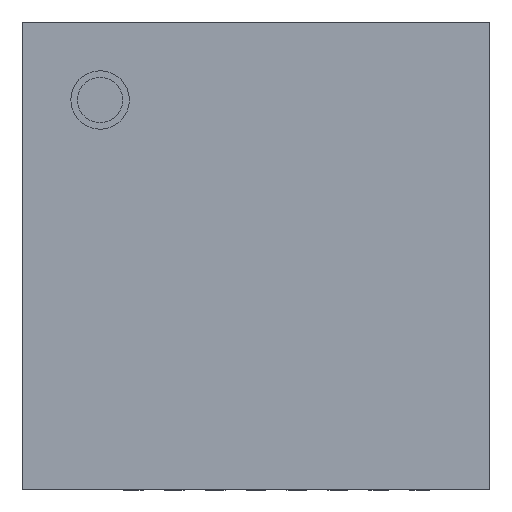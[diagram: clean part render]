
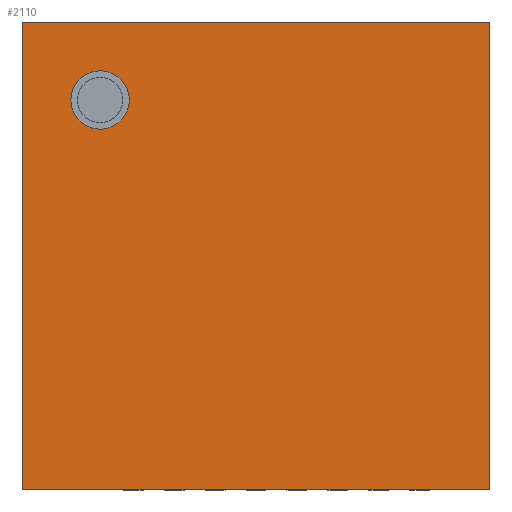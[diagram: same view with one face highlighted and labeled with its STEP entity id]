
A CAD part, top view. The second image highlights one B-rep face of the part: STEP entity #2110.
In plain terms, the highlighted planar face has unit normal (0, 0, 1).
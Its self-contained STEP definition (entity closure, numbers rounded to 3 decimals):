
#18 = VERTEX_POINT ( 'NONE', #1432 ) ;
#21 = CARTESIAN_POINT ( 'NONE',  ( 0., 0., 0.6 ) ) ;
#59 = LINE ( 'NONE', #1256, #1396 ) ;
#70 = EDGE_LOOP ( 'NONE', ( #2339, #147, #2365, #838 ) ) ;
#78 = DIRECTION ( 'NONE',  ( 0., 0., -1. ) ) ;
#82 = FACE_OUTER_BOUND ( 'NONE', #70, .T. ) ;
#147 = ORIENTED_EDGE ( 'NONE', *, *, #1062, .F. ) ;
#239 = FACE_BOUND ( 'NONE', #2206, .T. ) ;
#263 = ORIENTED_EDGE ( 'NONE', *, *, #1909, .T. ) ;
#268 = CARTESIAN_POINT ( 'NONE',  ( 4., 4., 0.6 ) ) ;
#276 = CARTESIAN_POINT ( 'NONE',  ( 0.667, 3.333, 0.6 ) ) ;
#330 = CARTESIAN_POINT ( 'NONE',  ( 4., 0., 0.6 ) ) ;
#353 = AXIS2_PLACEMENT_3D ( 'NONE', #673, #391, #1952 ) ;
#361 = EDGE_CURVE ( 'NONE', #748, #1251, #1150, .T. ) ;
#391 = DIRECTION ( 'NONE',  ( 0., 0., 1. ) ) ;
#413 = EDGE_CURVE ( 'NONE', #1038, #1251, #1621, .T. ) ;
#450 = AXIS2_PLACEMENT_3D ( 'NONE', #497, #1481, #2258 ) ;
#473 = VERTEX_POINT ( 'NONE', #1734 ) ;
#492 = AXIS2_PLACEMENT_3D ( 'NONE', #276, #78, #1849 ) ;
#497 = CARTESIAN_POINT ( 'NONE',  ( 0.667, 3.333, 0.6 ) ) ;
#534 = DIRECTION ( 'NONE',  ( 1., 0., 0. ) ) ;
#539 = ORIENTED_EDGE ( 'NONE', *, *, #894, .T. ) ;
#673 = CARTESIAN_POINT ( 'NONE',  ( 0., 0., 0.6 ) ) ;
#748 = VERTEX_POINT ( 'NONE', #1003 ) ;
#780 = DIRECTION ( 'NONE',  ( 0., -1., 0. ) ) ;
#838 = ORIENTED_EDGE ( 'NONE', *, *, #361, .T. ) ;
#894 = EDGE_CURVE ( 'NONE', #18, #1161, #995, .T. ) ;
#995 = CIRCLE ( 'NONE', #492, 0.25 ) ;
#1003 = CARTESIAN_POINT ( 'NONE',  ( 0., 0., 0.6 ) ) ;
#1038 = VERTEX_POINT ( 'NONE', #268 ) ;
#1062 = EDGE_CURVE ( 'NONE', #473, #1038, #59, .T. ) ;
#1150 = LINE ( 'NONE', #2072, #1215 ) ;
#1161 = VERTEX_POINT ( 'NONE', #1701 ) ;
#1215 = VECTOR ( 'NONE', #534, 1000. ) ;
#1251 = VERTEX_POINT ( 'NONE', #2266 ) ;
#1256 = CARTESIAN_POINT ( 'NONE',  ( 0., 4., 0.6 ) ) ;
#1287 = DIRECTION ( 'NONE',  ( 1., 0., 0. ) ) ;
#1341 = VECTOR ( 'NONE', #780, 1000. ) ;
#1396 = VECTOR ( 'NONE', #1287, 1000. ) ;
#1432 = CARTESIAN_POINT ( 'NONE',  ( 0.917, 3.333, 0.6 ) ) ;
#1481 = DIRECTION ( 'NONE',  ( 0., 0., -1. ) ) ;
#1546 = VECTOR ( 'NONE', #1623, 1000. ) ;
#1621 = LINE ( 'NONE', #330, #1341 ) ;
#1623 = DIRECTION ( 'NONE',  ( 0., -1., 0. ) ) ;
#1701 = CARTESIAN_POINT ( 'NONE',  ( 0.417, 3.333, 0.6 ) ) ;
#1734 = CARTESIAN_POINT ( 'NONE',  ( 0., 4., 0.6 ) ) ;
#1777 = CIRCLE ( 'NONE', #450, 0.25 ) ;
#1849 = DIRECTION ( 'NONE',  ( 1., 0., 0. ) ) ;
#1909 = EDGE_CURVE ( 'NONE', #1161, #18, #1777, .T. ) ;
#1927 = LINE ( 'NONE', #21, #1546 ) ;
#1952 = DIRECTION ( 'NONE',  ( 1., 0., 0. ) ) ;
#2072 = CARTESIAN_POINT ( 'NONE',  ( 0., 0., 0.6 ) ) ;
#2110 = ADVANCED_FACE ( 'NONE', ( #239, #82 ), #2275, .T. ) ;
#2206 = EDGE_LOOP ( 'NONE', ( #539, #263 ) ) ;
#2258 = DIRECTION ( 'NONE',  ( 1., 0., 0. ) ) ;
#2266 = CARTESIAN_POINT ( 'NONE',  ( 4., 0., 0.6 ) ) ;
#2273 = EDGE_CURVE ( 'NONE', #473, #748, #1927, .T. ) ;
#2275 = PLANE ( 'NONE',  #353 ) ;
#2339 = ORIENTED_EDGE ( 'NONE', *, *, #413, .F. ) ;
#2365 = ORIENTED_EDGE ( 'NONE', *, *, #2273, .T. ) ;
